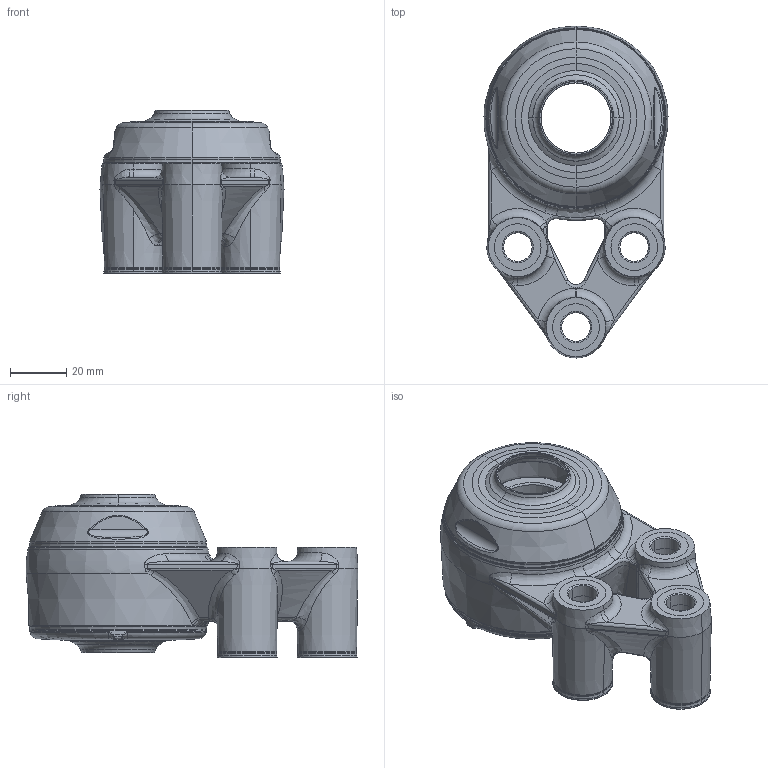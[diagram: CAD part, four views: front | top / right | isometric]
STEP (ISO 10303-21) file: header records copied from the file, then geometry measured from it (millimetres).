
FILE_DESCRIPTION (( 'STEP AP203' ), '1' );
FILE_NAME ('XB3FC52(Blue)-SSB2540(Front)-OM(Blue)-OS(Blue)_Shell.step', '2020-09-24T07:30:03', ( '' ), ( '' ), 'SwSTEP 2.0', 'SolidWorks 2019', '' );
FILE_SCHEMA (( 'CONFIG_CONTROL_DESIGN' ));
Length unit declared in the file: millimetre
Products named in the file (1): XB3FC52(Blue)-SSB2540(Front)-OM(Blue)-OS(Blue)_Shell
Bounding box: 65.6 x 118.34 x 58.14 mm (x, y, z)
Surface area: 42901.1 mm2 (no closed solid volume)
Topology: 0 solids, 37 shells, 493 faces, 1857 edges, 1371 vertices
Faces by surface type: bspline 174, cone 92, torus 89, cylinder 64, plane 45, sphere 29
Entity records: 33558 total; most frequent: CARTESIAN_POINT 20232, ORIENTED_EDGE 2847, DIRECTION 2178, EDGE_CURVE 1855, VERTEX_POINT 1371, AXIS2_PLACEMENT_3D 987, B_SPLINE_CURVE_WITH_KNOTS 956, CIRCLE 667
